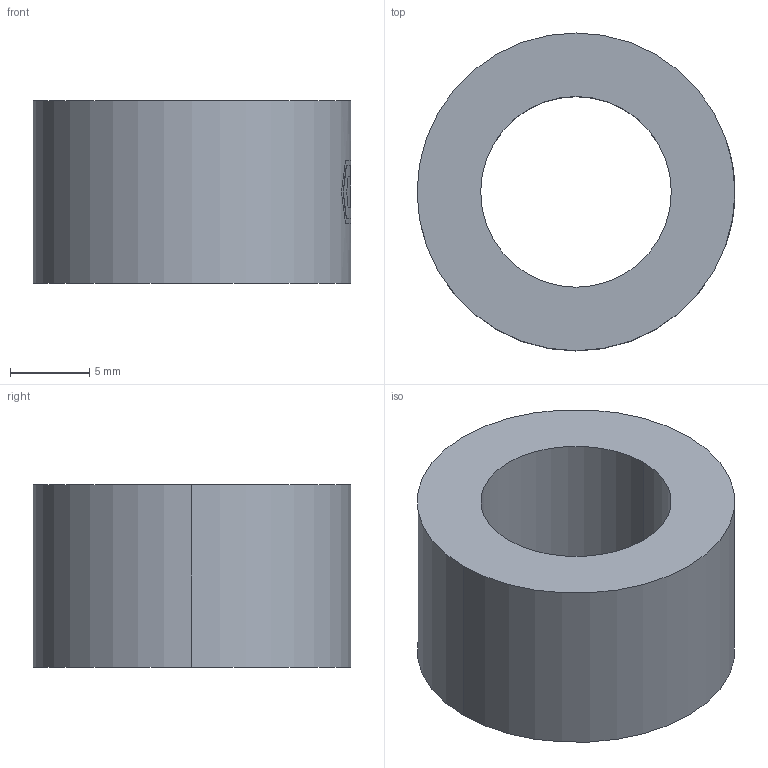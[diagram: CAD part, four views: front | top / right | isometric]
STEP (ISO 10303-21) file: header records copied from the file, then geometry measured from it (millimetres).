
FILE_DESCRIPTION (( 'STEP AP203' ), '1' );
FILE_NAME ('WJ-RDM 25-T.STEP', '2007-03-01T14:02:53', ( ' ' ), ( '' ), 'SwSTEP 2.0', 'SolidWorks 2005278', '' );
FILE_SCHEMA (( 'CONFIG_CONTROL_DESIGN' ));
Length unit declared in the file: millimetre
Products named in the file (1): WJ-RDM 25-T
Bounding box: 20 x 20 x 11.5 mm (x, y, z)
Volume: 2077.5 mm3; surface area: 1538.8 mm2
Topology: 1 solids, 1 shells, 46 faces, 125 edges, 82 vertices
Faces by surface type: plane 36, cylinder 8, cone 2
Entity records: 1558 total; most frequent: CARTESIAN_POINT 314, ORIENTED_EDGE 250, DIRECTION 239, EDGE_CURVE 125, AXIS2_PLACEMENT_3D 87, VERTEX_POINT 82, VECTOR 65, LINE 65
